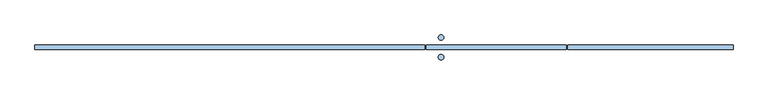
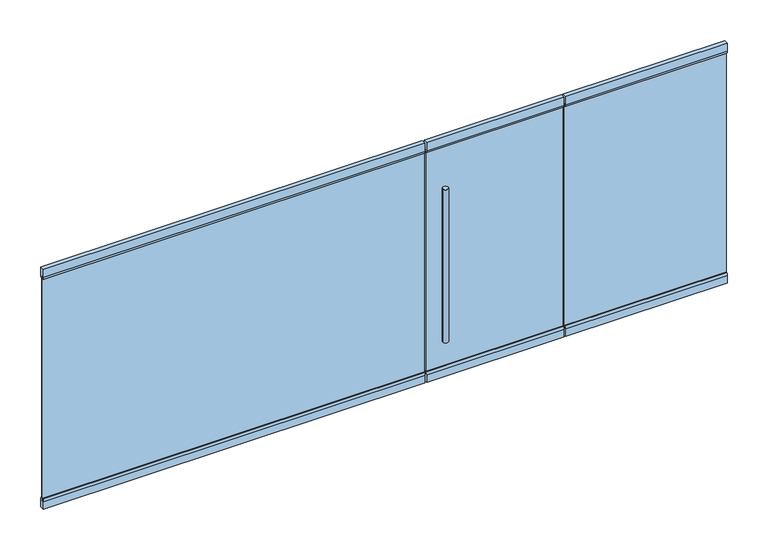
"""IFC4 building model written with IfcOpenShell, lengths in millimetres: window geometry, Herculite-1 Puerta : V1 - Herculite-1 Puerta."""

from ifc_helpers import new_model, si_unit, point, frame, frame_2d, origin, place, context, project, spatial, polyline, circle_curve, trimmed, segment, composite_curve, outline, extrude, source, transform, mapped, element, save


def window_fa425d28(model_context):
    return source(origin(), model_context, "Body", "SweptSolid", [
        extrude(outline(composite_curve([segment(polyline([(7.5, 2250.0), (7.5, 2280.0), (-7.5, 2280.0), (-7.5, 2250.0), (-15.0, 2250.0)]), True, "CONTINUOUS"), segment(trimmed(circle_curve(frame_2d((20.0, 2269.3649167)), 40.0), [point((-15.0, 2250.0))], [point((-20.0, 2269.3649167))], False, "CARTESIAN"), True, "CONTINUOUS"), segment(polyline([(-20.0, 2269.3649167), (-20.0, 2350.0), (20.0, 2350.0), (20.0, 2269.3649167)]), True, "CONTINUOUS"), segment(trimmed(circle_curve(frame_2d((-20.0, 2269.3649167)), 40.0), [point((20.0, 2269.3649167))], [point((15.0, 2250.0))], False, "CARTESIAN"), True, "CONTINUOUS"), segment(polyline([(15.0, 2250.0), (7.5, 2250.0)]), True, "CONTINUOUS")], self_intersect=False)), frame((382.5, 0.0, 0.0), z_axis=(1.0, 0.0, 0.0), x_axis=(0.0, 1.0, 0.0)), (0.0, 0.0, 1.0), 1270.0),
        extrude(outline(composite_curve([segment(polyline([(7.5, 2250.0), (7.5, 2280.0), (-7.5, 2280.0), (-7.5, 2250.0), (-15.0, 2250.0)]), True, "CONTINUOUS"), segment(trimmed(circle_curve(frame_2d((20.0, 2269.3649167)), 40.0), [point((-15.0, 2250.0))], [point((-20.0, 2269.3649167))], False, "CARTESIAN"), True, "CONTINUOUS"), segment(polyline([(-20.0, 2269.3649167), (-20.0, 2350.0), (20.0, 2350.0), (20.0, 2269.3649167)]), True, "CONTINUOUS"), segment(trimmed(circle_curve(frame_2d((-20.0, 2269.3649167)), 40.0), [point((20.0, 2269.3649167))], [point((15.0, 2250.0))], False, "CARTESIAN"), True, "CONTINUOUS"), segment(polyline([(15.0, 2250.0), (7.5, 2250.0)]), True, "CONTINUOUS")], self_intersect=False)), frame((1667.5, 0.0, 0.0), z_axis=(1.0, 0.0, 0.0), x_axis=(0.0, 1.0, 0.0)), (0.0, 0.0, 1.0), 1500.0),
        extrude(outline(composite_curve([segment(polyline([(7.5, 2250.0), (7.5, 2280.0), (-7.5, 2280.0), (-7.5, 2250.0), (-15.0, 2250.0)]), True, "CONTINUOUS"), segment(trimmed(circle_curve(frame_2d((20.0, 2269.3649167)), 40.0), [point((-15.0, 2250.0))], [point((-20.0, 2269.3649167))], False, "CARTESIAN"), True, "CONTINUOUS"), segment(polyline([(-20.0, 2269.3649167), (-20.0, 2350.0), (20.0, 2350.0), (20.0, 2269.3649167)]), True, "CONTINUOUS"), segment(trimmed(circle_curve(frame_2d((-20.0, 2269.3649167)), 40.0), [point((20.0, 2269.3649167))], [point((15.0, 2250.0))], False, "CARTESIAN"), True, "CONTINUOUS"), segment(polyline([(15.0, 2250.0), (7.5, 2250.0)]), True, "CONTINUOUS")], self_intersect=False)), frame((-3167.5, 0.0, 0.0), z_axis=(1.0, 0.0, 0.0), x_axis=(0.0, 1.0, 0.0)), (0.0, 0.0, 1.0), 3535.0),
        extrude(outline(composite_curve([segment(trimmed(circle_curve(frame_2d((517.6, 90.00005)), 25.0), [point((492.6, 90.00005))], [point((542.6, 90.00005))], False, "CARTESIAN"), True, "CONTINUOUS"), segment(trimmed(circle_curve(frame_2d((517.6, 90.00005)), 25.0), [point((542.6, 90.00005))], [point((492.6, 90.00005))], False, "CARTESIAN"), True, "CONTINUOUS")], self_intersect=False)), frame((0.0, 0.0, 400.0), z_axis=(0.0, 0.0, 1.0), x_axis=(1.0, 0.0, 0.0)), (0.0, 0.0, 1.0), 1500.0),
        extrude(outline(composite_curve([segment(trimmed(circle_curve(frame_2d((517.6, -90.00005)), 25.0), [point((492.6, -90.00005))], [point((542.6, -90.00005))], False, "CARTESIAN"), True, "CONTINUOUS"), segment(trimmed(circle_curve(frame_2d((517.6, -90.00005)), 25.0), [point((542.6, -90.00005))], [point((492.6, -90.00005))], False, "CARTESIAN"), True, "CONTINUOUS")], self_intersect=False)), frame((0.0, 0.0, 400.0), z_axis=(0.0, 0.0, 1.0), x_axis=(1.0, 0.0, 0.0)), (0.0, 0.0, 1.0), 1500.0),
        extrude(outline(composite_curve([segment(polyline([(7.5, 100.0), (15.0, 100.0)]), True, "CONTINUOUS"), segment(trimmed(circle_curve(frame_2d((-45.0, 75.0)), 65.0), [point((15.0, 100.0))], [point((20.0, 75.0))], False, "CARTESIAN"), True, "CONTINUOUS"), segment(polyline([(20.0, 75.0), (20.0, 0.0), (-20.0, 0.0), (-20.0, 75.0)]), True, "CONTINUOUS"), segment(trimmed(circle_curve(frame_2d((45.0, 75.0)), 65.0), [point((-20.0, 75.0))], [point((-15.0, 100.0))], False, "CARTESIAN"), True, "CONTINUOUS"), segment(polyline([(-15.0, 100.0), (-7.5, 100.0), (-7.5, 70.0), (7.5, 70.0), (7.5, 100.0)]), True, "CONTINUOUS")], self_intersect=False)), frame((382.5, 0.0, 0.0), z_axis=(1.0, 0.0, 0.0), x_axis=(0.0, 1.0, 0.0)), (0.0, 0.0, 1.0), 1270.0),
        extrude(outline(polyline([(382.5, 5.5), (1652.5, 5.5), (1652.5, -5.5), (382.5, -5.5), (382.5, 5.5)])), frame((0.0, 0.0, 72.0), z_axis=(0.0, 0.0, 1.0), x_axis=(1.0, 0.0, 0.0)), (0.0, 0.0, 1.0), 2206.0),
        extrude(outline(composite_curve([segment(polyline([(7.5, 100.0), (15.0, 100.0)]), True, "CONTINUOUS"), segment(trimmed(circle_curve(frame_2d((-45.0, 75.0)), 65.0), [point((15.0, 100.0))], [point((20.0, 75.0))], False, "CARTESIAN"), True, "CONTINUOUS"), segment(polyline([(20.0, 75.0), (20.0, 0.0), (-20.0, 0.0), (-20.0, 75.0)]), True, "CONTINUOUS"), segment(trimmed(circle_curve(frame_2d((45.0, 75.0)), 65.0), [point((-20.0, 75.0))], [point((-15.0, 100.0))], False, "CARTESIAN"), True, "CONTINUOUS"), segment(polyline([(-15.0, 100.0), (-7.5, 100.0), (-7.5, 70.0), (7.5, 70.0), (7.5, 100.0)]), True, "CONTINUOUS")], self_intersect=False)), frame((1667.5, 0.0, 0.0), z_axis=(1.0, 0.0, 0.0), x_axis=(0.0, 1.0, 0.0)), (0.0, 0.0, 1.0), 1500.0),
        extrude(outline(composite_curve([segment(polyline([(7.5, 100.0), (15.0, 100.0)]), True, "CONTINUOUS"), segment(trimmed(circle_curve(frame_2d((-45.0, 75.0)), 65.0), [point((15.0, 100.0))], [point((20.0, 75.0))], False, "CARTESIAN"), True, "CONTINUOUS"), segment(polyline([(20.0, 75.0), (20.0, 0.0), (-20.0, 0.0), (-20.0, 75.0)]), True, "CONTINUOUS"), segment(trimmed(circle_curve(frame_2d((45.0, 75.0)), 65.0), [point((-20.0, 75.0))], [point((-15.0, 100.0))], False, "CARTESIAN"), True, "CONTINUOUS"), segment(polyline([(-15.0, 100.0), (-7.5, 100.0), (-7.5, 70.0), (7.5, 70.0), (7.5, 100.0)]), True, "CONTINUOUS")], self_intersect=False)), frame((-3167.5, 0.0, 0.0), z_axis=(1.0, 0.0, 0.0), x_axis=(0.0, 1.0, 0.0)), (0.0, 0.0, 1.0), 3535.0),
        extrude(outline(polyline([(1667.5, 5.5), (3167.5, 5.5), (3167.5, -5.5), (1667.5, -5.5), (1667.5, 5.5)])), frame((0.0, 0.0, 72.0), z_axis=(0.0, 0.0, 1.0), x_axis=(1.0, 0.0, 0.0)), (0.0, 0.0, 1.0), 2206.0),
        extrude(outline(polyline([(-3167.5, 5.5), (367.5, 5.5), (367.5, -5.5), (-3167.5, -5.5), (-3167.5, 5.5)])), frame((0.0, 0.0, 72.0), z_axis=(0.0, 0.0, 1.0), x_axis=(1.0, 0.0, 0.0)), (0.0, 0.0, 1.0), 2206.0),
    ])


if __name__ == "__main__":
    model = new_model("IFC4")
    model_context = context("Model", 3, world=origin())
    ifc_project = project(units=[si_unit("LENGTHUNIT", "METRE", prefix="MILLI")], contexts=[model_context])
    site = spatial("IfcSite", under=ifc_project)
    building = spatial("IfcBuilding", under=site)
    placement = place(None, origin())
    window_shape = window_fa425d28(model_context)
    element("IfcWindow", 1, ObjectType="Herculite-1 Puerta : V1 - Herculite-1 Puerta", at=placement, inside=building, context=model_context, shape_type="MappedRepresentation", body=[
        mapped(window_shape, transform((0.0, 0.0, 0.0), x_axis=(1.0, 0.0, 0.0), y_axis=(0.0, 1.0, 0.0), z_axis=(0.0, 0.0, 1.0))),
    ])
    save(model, "model.ifc")
